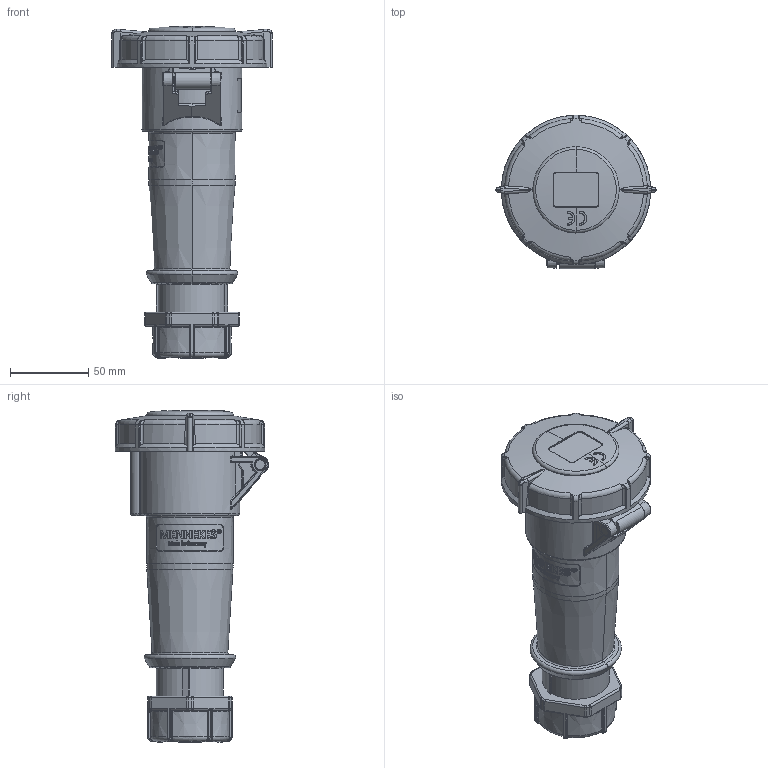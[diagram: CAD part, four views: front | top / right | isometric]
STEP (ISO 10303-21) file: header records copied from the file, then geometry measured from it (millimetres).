
FILE_DESCRIPTION((''),'2;1');
FILE_NAME('556_SW0001','2018-08-08T',('kremer'),('MENNEKES'),'PRO/ENGINEER BY PARAMETRIC TECHNOLOGY CORPORATION, 2015440','PRO/ENGINEER BY PARAMETRIC TECHNOLOGY CORPORATION, 2015440','');
FILE_SCHEMA(('AUTOMOTIVE_DESIGN { 1 0 10303 214 1 1 1 1 }'));
Length unit declared in the file: millimetre
Products named in the file (1): 556_SW0001
Bounding box: 102.6 x 98.29 x 212.47 mm (x, y, z)
Volume: 586065.9 mm3; surface area: 63013.6 mm2
Topology: 1 solids, 1 shells, 1766 faces, 4641 edges, 2926 vertices
Faces by surface type: plane 706, bspline 289, cylinder 273, extrusion 242, torus 141, cone 96, sphere 19
Entity records: 88291 total; most frequent: CARTESIAN_POINT 27564, ORIENTED_EDGE 9278, DIRECTION 6925, EDGE_CURVE 4639, FILL_AREA_STYLE_COLOUR 3179, FILL_AREA_STYLE 3179, SURFACE_STYLE_FILL_AREA 3179, SURFACE_SIDE_STYLE 3179
